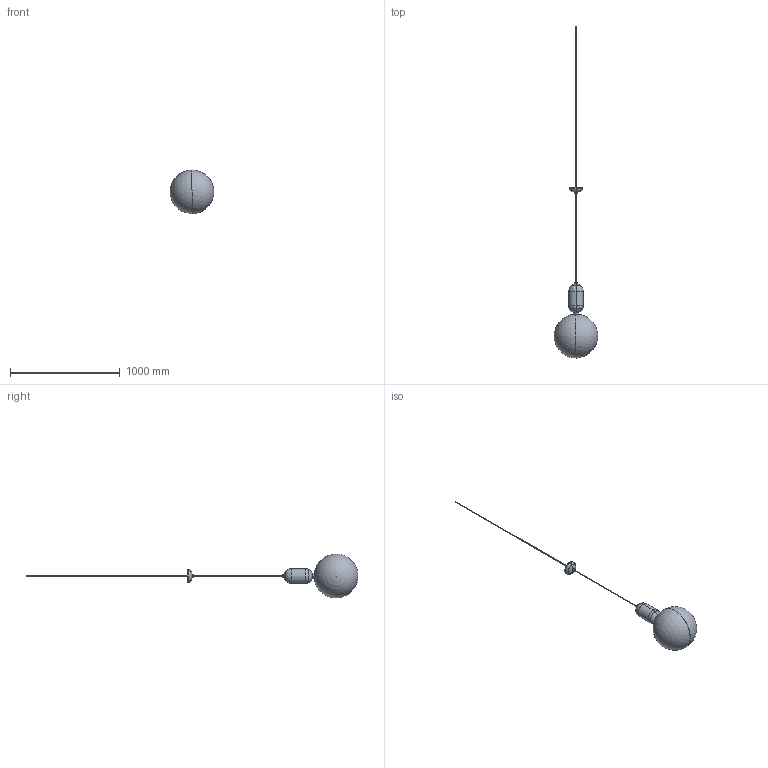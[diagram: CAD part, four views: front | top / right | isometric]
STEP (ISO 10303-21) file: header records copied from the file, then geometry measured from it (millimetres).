
FILE_DESCRIPTION (( 'STEP AP214' ), '1' );
FILE_NAME ('ABALLS T GRANDE.STEP', '2014-10-14T10:46:55', ( 'Josep Sancho' ), ( '' ), 'SwSTEP 2.0', 'SolidWorks 2010', '' );
FILE_SCHEMA (( 'AUTOMOTIVE_DESIGN' ));
Length unit declared in the file: millimetre
Products named in the file (12): 052700300000 - CERÁM DIAM.135X270MM; 054100300119 - TAPÓN EMBELLECEDOR DIAM.17X16,5 M12; CABLE MANGUERA 2,5M RECTO; CONJUNTO FLORON T; 060700500000 - REPULS DIAM.120X60MM; 054100400119 - TAPON EMBELLECEDOR DIAM.17X10MM M12; 022605300000 - ARANDELA DIAM.18X2MM POLIETILENO NEUTRO; 022605200105 - ARAND SILICONA TRANSP. DIAM.47X1,5MM; 067600700103 - DIFUSOR CRISTAL OPAL BLANCO MATE DIAM.400 TALADRO 80MM; 061700200119 - CILINDRO CUELLO DIAM.50X26MM; 060700800126 - REPULSADO ESFERICO DIAM.92 ESPESOR 1MM - PINTADO B; ABALLS T GRANDE
Assembly tree (11 placements, depth 3):
  ABALLS T GRANDE
    CABLE MANGUERA 2,5M RECTO
    060700800126 - REPULSADO ESFERICO DIAM.92 ESPESOR 1MM - PINTADO B
    052700300000 - CERÁM DIAM.135X270MM
    061700200119 - CILINDRO CUELLO DIAM.50X26MM
    CONJUNTO FLORON T
      060700500000 - REPULS DIAM.120X60MM
      054100400119 - TAPON EMBELLECEDOR DIAM.17X10MM M12
    067600700103 - DIFUSOR CRISTAL OPAL BLANCO MATE DIAM.400 TALADRO 80MM
    022605200105 - ARAND SILICONA TRANSP. DIAM.47X1,5MM
    022605300000 - ARANDELA DIAM.18X2MM POLIETILENO NEUTRO
    054100300119 - TAPÓN EMBELLECEDOR DIAM.17X16,5 M12
Bounding box: 400 x 3027.36 x 399.98 mm (x, y, z)
Volume: 2397068.2 mm3; surface area: 1346118.6 mm2
Topology: 10 solids, 10 shells, 176 faces, 396 edges, 236 vertices
Faces by surface type: cylinder 76, torus 50, plane 26, cone 16, sphere 8
Entity records: 5604 total; most frequent: DIRECTION 1022, CARTESIAN_POINT 881, ORIENTED_EDGE 756, AXIS2_PLACEMENT_3D 461, EDGE_CURVE 378, CIRCLE 270, VERTEX_POINT 230, EDGE_LOOP 210
